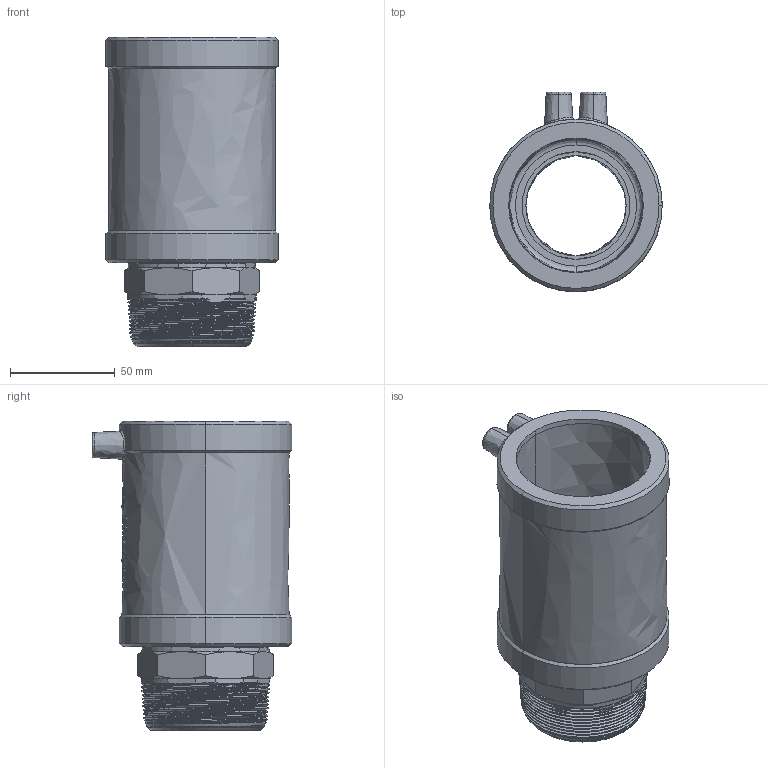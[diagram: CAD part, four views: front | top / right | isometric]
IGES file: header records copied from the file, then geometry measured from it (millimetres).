
Start section:  PTC IGES file: mun_d63_2_01.igs
Global section: file name: mun_d63_2_01.igs; native system: Pro/ENGINEER by Parametric Technology Corporation; preprocessor: 2011490; author: mtunjic; organization: Unknown; date: 20130823.150042; units: millimetre
Bounding box: 82.5 x 95.45 x 148.26 mm (x, y, z)
Surface area: 73659.9 mm2 (no closed solid volume)
Topology: 0 solids, 0 shells, 453 faces, 2422 edges, 2422 vertices
Faces by surface type: bspline 453
